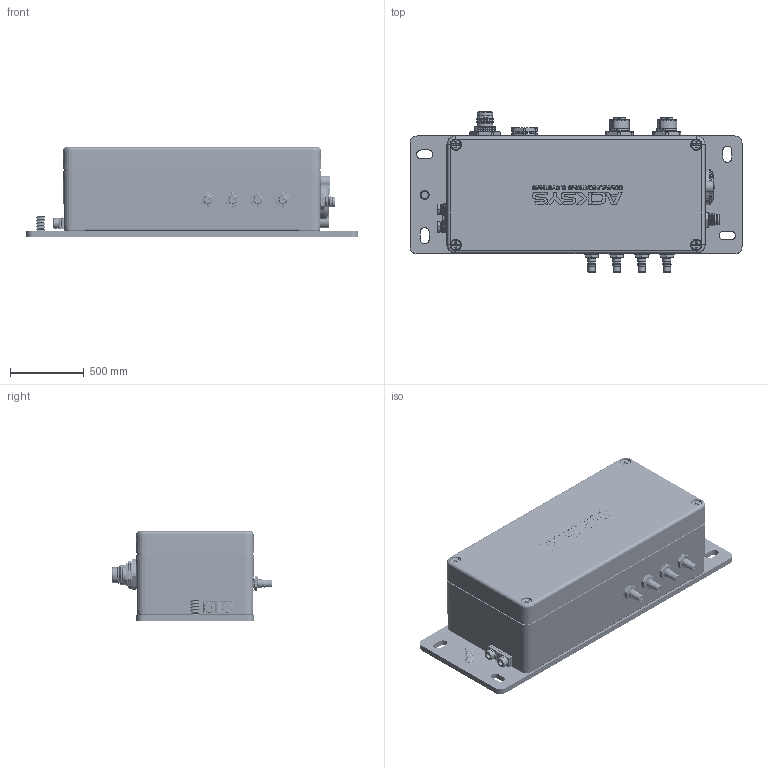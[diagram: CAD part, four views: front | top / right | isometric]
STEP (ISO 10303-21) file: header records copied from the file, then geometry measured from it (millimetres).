
FILE_DESCRIPTION(/* description */ (''),/* implementation_level */ '2;1');
FILE_NAME(/* name */ 'C:\Users\Jonathan\Documents\RailBox\Méca\RailBox_60AX.stp',/* time_stamp */ '2020-03-19T17:36:58+01:00',/* author */ ('Jonathan'),/* organization */ (''),/* preprocessor_version */ 'ST-DEVELOPER v18',/* originating_system */ 'AutoCAD Mechanical',/* authorisation */ '');
FILE_SCHEMA (('AUTOMOTIVE_DESIGN { 1 0 10303 214 3 1 1 }'));
Products named in the file (5): Product; M8m-3p; A$C4C8B2B51; A$Cc5af2574; QMA
Assembly tree (7 placements, depth 3):
  Product
    M8m-3p
      A$C4C8B2B51
    QMA  x3
    A$Cc5af2574
      QMA
Bounding box: 2250 x 1086.49 x 605.52 mm (x, y, z)
Volume: 286214181.8 mm3; surface area: 17132917.3 mm2
Topology: 50 solids, 69 shells, 3900 faces, 10560 edges, 6943 vertices
Faces by surface type: plane 2087, cylinder 780, cone 555, torus 237, bspline 194, sphere 47
Full cylindrical faces by diameter (mm): 2.169 x1, 6 x16, 7 x16, 9.5 x4, 10 x12, 11 x16, 12 x4, 12.4 x16, 12.75 x4, 12.9 x8, 18.763 x4, 25 x4, 30 x6, 31.41 x6, 32 x2, 33 x5, 35 x4, 37 x4, 40 x4, 40.6 x8, 41 x4, 45 x10, 46 x4, 49 x4, 49.5 x4, 55.2 x4, 55.7 x4, 58 x1, 60 x11, 61.589 x2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
Entity records: 121197 total; most frequent: CARTESIAN_POINT 34930, ORIENTED_EDGE 18623, DIRECTION 17377, EDGE_CURVE 9312, VERTEX_POINT 6125, AXIS2_PLACEMENT_3D 6001, LINE 5375, VECTOR 5375
